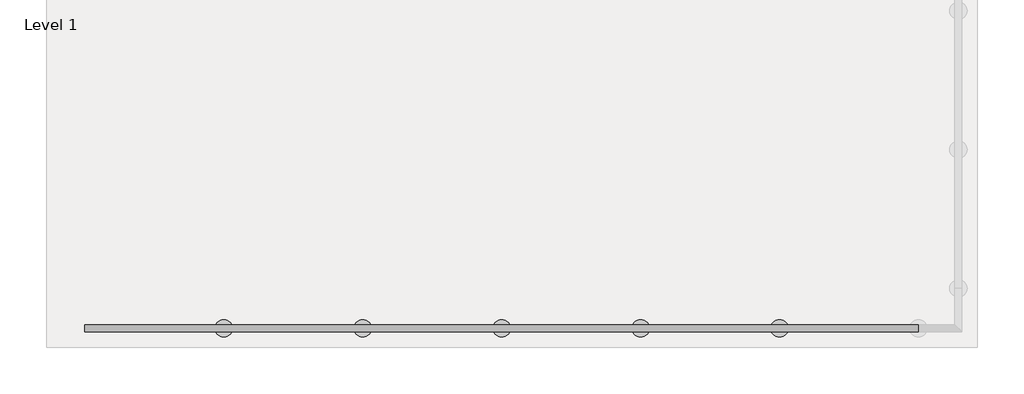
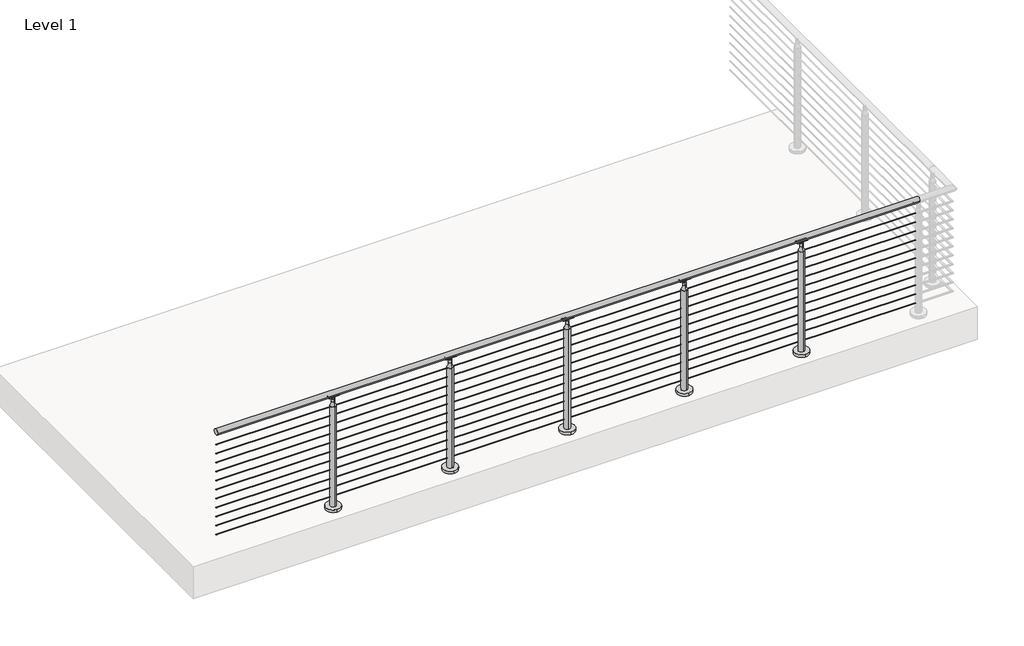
# One storey, part 16 of 21: 1 railing.
"""IFC4 building model written with IfcOpenShell, lengths in millimetres."""

from ifc_helpers import new_model, si_unit, point, frame, frame_2d, origin, origin_with_axes, place, context, project, spatial, polyline, circle_curve, ellipse_curve, trimmed, segment, composite_curve, outline, extrude, element, save
from ifc_brep_helpers import plane_surface, cylinder_surface, revolved_surface, advanced_brep

model = new_model("IFC4")

# Units and contexts
model_context = context("Model", 3, world=origin())
ifc_project = project(units=[si_unit("LENGTHUNIT", "METRE", prefix="MILLI")], contexts=[model_context])

# Site, building, storey
site = spatial("IfcSite", under=ifc_project)
building = spatial("IfcBuilding", under=site)
storey = spatial("IfcBuildingStorey", under=building, Name="Level 1", Elevation=0.0)

# Railing
placement = place(None, origin())
element("IfcRailing", 1, ObjectType="VIVA-CIRCA-Cable-Core Mount-Straight", at=placement, inside=storey, context=model_context, shape_type="SolidModel", body=[
    extrude(outline(composite_curve([segment(trimmed(circle_curve(frame_2d((-57044.7334719, 1054.1)), 25.4), [point((-57070.1334719, 1054.1))], [point((-57019.3334719, 1054.1))], False, "CARTESIAN"), True, "CONTINUOUS"), segment(trimmed(circle_curve(frame_2d((-57044.7334719, 1054.1)), 25.4), [point((-57019.3334719, 1054.1))], [point((-57070.1334719, 1054.1))], False, "CARTESIAN"), True, "CONTINUOUS")], self_intersect=False)), frame((63495.9592968, 0.0, 0.0), z_axis=(1.0, 0.0, 0.0), x_axis=(0.0, 1.0, 0.0)), (0.0, 0.0, 1.0), 6096.0),
    extrude(outline(composite_curve([segment(trimmed(circle_curve(frame_2d((-57044.7334719, 937.4124)), 2.3876), [point((-57042.3458719, 937.4124))], [point((-57047.1210719, 937.4124))], False, "CARTESIAN"), True, "CONTINUOUS"), segment(trimmed(circle_curve(frame_2d((-57044.7334719, 937.4124)), 2.3876), [point((-57047.1210719, 937.4124))], [point((-57042.3458719, 937.4124))], False, "CARTESIAN"), True, "CONTINUOUS")], self_intersect=False)), frame((63495.9592968, 0.0, 0.0), z_axis=(1.0, 0.0, 0.0), x_axis=(0.0, 1.0, 0.0)), (0.0, 0.0, 1.0), 6096.0),
    extrude(outline(composite_curve([segment(trimmed(circle_curve(frame_2d((-57044.7334719, 854.8624)), 2.3876), [point((-57042.3458719, 854.8624))], [point((-57047.1210719, 854.8624))], False, "CARTESIAN"), True, "CONTINUOUS"), segment(trimmed(circle_curve(frame_2d((-57044.7334719, 854.8624)), 2.3876), [point((-57047.1210719, 854.8624))], [point((-57042.3458719, 854.8624))], False, "CARTESIAN"), True, "CONTINUOUS")], self_intersect=False)), frame((63495.9592968, 0.0, 0.0), z_axis=(1.0, 0.0, 0.0), x_axis=(0.0, 1.0, 0.0)), (0.0, 0.0, 1.0), 6096.0),
    extrude(outline(composite_curve([segment(trimmed(circle_curve(frame_2d((-57044.7334719, 772.3124)), 2.3876), [point((-57042.3458719, 772.3124))], [point((-57047.1210719, 772.3124))], False, "CARTESIAN"), True, "CONTINUOUS"), segment(trimmed(circle_curve(frame_2d((-57044.7334719, 772.3124)), 2.3876), [point((-57047.1210719, 772.3124))], [point((-57042.3458719, 772.3124))], False, "CARTESIAN"), True, "CONTINUOUS")], self_intersect=False)), frame((63495.9592968, 0.0, 0.0), z_axis=(1.0, 0.0, 0.0), x_axis=(0.0, 1.0, 0.0)), (0.0, 0.0, 1.0), 6096.0),
    extrude(outline(composite_curve([segment(trimmed(circle_curve(frame_2d((-57044.7334719, 689.7624)), 2.3876), [point((-57042.3458719, 689.7624))], [point((-57047.1210719, 689.7624))], False, "CARTESIAN"), True, "CONTINUOUS"), segment(trimmed(circle_curve(frame_2d((-57044.7334719, 689.7624)), 2.3876), [point((-57047.1210719, 689.7624))], [point((-57042.3458719, 689.7624))], False, "CARTESIAN"), True, "CONTINUOUS")], self_intersect=False)), frame((63495.9592968, 0.0, 0.0), z_axis=(1.0, 0.0, 0.0), x_axis=(0.0, 1.0, 0.0)), (0.0, 0.0, 1.0), 6096.0),
    extrude(outline(composite_curve([segment(trimmed(circle_curve(frame_2d((-57044.7334719, 607.2124)), 2.3876), [point((-57042.3458719, 607.2124))], [point((-57047.1210719, 607.2124))], False, "CARTESIAN"), True, "CONTINUOUS"), segment(trimmed(circle_curve(frame_2d((-57044.7334719, 607.2124)), 2.3876), [point((-57047.1210719, 607.2124))], [point((-57042.3458719, 607.2124))], False, "CARTESIAN"), True, "CONTINUOUS")], self_intersect=False)), frame((63495.9592968, 0.0, 0.0), z_axis=(1.0, 0.0, 0.0), x_axis=(0.0, 1.0, 0.0)), (0.0, 0.0, 1.0), 6096.0),
    extrude(outline(composite_curve([segment(trimmed(circle_curve(frame_2d((-57044.7334719, 524.6624)), 2.3876), [point((-57042.3458719, 524.6624))], [point((-57047.1210719, 524.6624))], False, "CARTESIAN"), True, "CONTINUOUS"), segment(trimmed(circle_curve(frame_2d((-57044.7334719, 524.6624)), 2.3876), [point((-57047.1210719, 524.6624))], [point((-57042.3458719, 524.6624))], False, "CARTESIAN"), True, "CONTINUOUS")], self_intersect=False)), frame((63495.9592968, 0.0, 0.0), z_axis=(1.0, 0.0, 0.0), x_axis=(0.0, 1.0, 0.0)), (0.0, 0.0, 1.0), 6096.0),
    extrude(outline(composite_curve([segment(trimmed(circle_curve(frame_2d((-57044.7334719, 442.1124)), 2.3876), [point((-57042.3458719, 442.1124))], [point((-57047.1210719, 442.1124))], False, "CARTESIAN"), True, "CONTINUOUS"), segment(trimmed(circle_curve(frame_2d((-57044.7334719, 442.1124)), 2.3876), [point((-57047.1210719, 442.1124))], [point((-57042.3458719, 442.1124))], False, "CARTESIAN"), True, "CONTINUOUS")], self_intersect=False)), frame((63495.9592968, 0.0, 0.0), z_axis=(1.0, 0.0, 0.0), x_axis=(0.0, 1.0, 0.0)), (0.0, 0.0, 1.0), 6096.0),
    extrude(outline(composite_curve([segment(trimmed(circle_curve(frame_2d((-57044.7334719, 359.5624)), 2.3876), [point((-57042.3458719, 359.5624))], [point((-57047.1210719, 359.5624))], False, "CARTESIAN"), True, "CONTINUOUS"), segment(trimmed(circle_curve(frame_2d((-57044.7334719, 359.5624)), 2.3876), [point((-57047.1210719, 359.5624))], [point((-57042.3458719, 359.5624))], False, "CARTESIAN"), True, "CONTINUOUS")], self_intersect=False)), frame((63495.9592968, 0.0, 0.0), z_axis=(1.0, 0.0, 0.0), x_axis=(0.0, 1.0, 0.0)), (0.0, 0.0, 1.0), 6096.0),
    extrude(outline(composite_curve([segment(trimmed(circle_curve(frame_2d((-57044.7334719, 277.0124)), 2.3876), [point((-57042.3458719, 277.0124))], [point((-57047.1210719, 277.0124))], False, "CARTESIAN"), True, "CONTINUOUS"), segment(trimmed(circle_curve(frame_2d((-57044.7334719, 277.0124)), 2.3876), [point((-57047.1210719, 277.0124))], [point((-57042.3458719, 277.0124))], False, "CARTESIAN"), True, "CONTINUOUS")], self_intersect=False)), frame((63495.9592968, 0.0, 0.0), z_axis=(1.0, 0.0, 0.0), x_axis=(0.0, 1.0, 0.0)), (0.0, 0.0, 1.0), 6096.0),
    extrude(outline(composite_curve([segment(trimmed(circle_curve(frame_2d((-57044.7334719, 194.4624)), 2.3876), [point((-57042.3458719, 194.4624))], [point((-57047.1210719, 194.4624))], False, "CARTESIAN"), True, "CONTINUOUS"), segment(trimmed(circle_curve(frame_2d((-57044.7334719, 194.4624)), 2.3876), [point((-57047.1210719, 194.4624))], [point((-57042.3458719, 194.4624))], False, "CARTESIAN"), True, "CONTINUOUS")], self_intersect=False)), frame((63495.9592968, 0.0, 0.0), z_axis=(1.0, 0.0, 0.0), x_axis=(0.0, 1.0, 0.0)), (0.0, 0.0, 1.0), 6096.0),
    extrude(outline(composite_curve([segment(trimmed(circle_curve(frame_2d((-57044.7334719, 111.9124)), 2.3876), [point((-57042.3458719, 111.9124))], [point((-57047.1210719, 111.9124))], False, "CARTESIAN"), True, "CONTINUOUS"), segment(trimmed(circle_curve(frame_2d((-57044.7334719, 111.9124)), 2.3876), [point((-57047.1210719, 111.9124))], [point((-57042.3458719, 111.9124))], False, "CARTESIAN"), True, "CONTINUOUS")], self_intersect=False)), frame((63495.9592968, 0.0, 0.0), z_axis=(1.0, 0.0, 0.0), x_axis=(0.0, 1.0, 0.0)), (0.0, 0.0, 1.0), 6096.0),
    extrude(outline(composite_curve([segment(trimmed(circle_curve(frame_2d((68576.3561718, -57044.7334719)), 63.5), [point((68576.3561718, -57108.2334719))], [point((68576.3561718, -56981.2334719))], False, "CARTESIAN"), True, "CONTINUOUS"), segment(trimmed(circle_curve(frame_2d((68576.3561718, -57044.7334719)), 63.5), [point((68576.3561718, -56981.2334719))], [point((68576.3561718, -57108.2334719))], False, "CARTESIAN"), True, "CONTINUOUS")], self_intersect=False)), origin_with_axes(), (0.0, 0.0, 1.0), 25.4),
    extrude(outline(composite_curve([segment(trimmed(circle_curve(frame_2d((-57044.6367435, 1055.4254922)), 25.4345159), [point((-57057.2005464, 1033.3106679))], [point((-57032.2415097, 1033.2157471))], True, "CARTESIAN"), True, "CONTINUOUS"), segment(trimmed(circle_curve(frame_2d((-57030.9968566, 1030.7132623)), 2.7949225), [point((-57032.2415097, 1033.2157471))], [point((-57029.5195515, 1028.3406769))], False, "CARTESIAN"), True, "CONTINUOUS"), segment(trimmed(circle_curve(frame_2d((-57044.7702066, 1056.1881188)), 31.75), [point((-57029.5195515, 1028.3406769))], [point((-57061.0364438, 1028.9214354))], False, "CARTESIAN"), True, "CONTINUOUS"), segment(trimmed(circle_curve(frame_2d((-57058.7481041, 1030.7923545)), 2.9558141), [point((-57061.0364438, 1028.9214354))], [point((-57057.2005464, 1033.3106679))], False, "CARTESIAN"), True, "CONTINUOUS")], self_intersect=False)), frame((68531.1187718, 0.0, 0.0), z_axis=(1.0, 0.0, 0.0), x_axis=(0.0, 1.0, 0.0)), (0.0, 0.0, 1.0), 90.4748),
    extrude(outline(composite_curve([segment(polyline([(1024.6506908, 68603.4240866), (1024.6506908, 68549.2882569)]), True, "CONTINUOUS"), segment(trimmed(circle_curve(frame_2d((1010.282776, 68549.2882569)), 14.3679149), [point((1024.6506908, 68549.2882569))], [point((1010.282776, 68563.6561718))], True, "CARTESIAN"), True, "CONTINUOUS"), segment(trimmed(circle_curve(frame_2d((1010.282776, 68576.3561718)), 12.7), [point((1010.282776, 68563.6561718))], [point((1010.282776, 68589.0561718))], False, "CARTESIAN"), True, "CONTINUOUS"), segment(trimmed(circle_curve(frame_2d((1010.282776, 68603.4240866)), 14.3679149), [point((1010.282776, 68589.0561718))], [point((1024.6506908, 68603.4240866))], True, "CARTESIAN"), True, "CONTINUOUS")], self_intersect=False)), frame((0.0, -57047.2734719, 0.0), z_axis=(0.0, 1.0, 0.0), x_axis=(0.0, 0.0, 1.0)), (0.0, 0.0, 1.0), 5.08),
    advanced_brep(
    [(68576.3561718, -57070.1328697, 941.1347854), (68576.3561718, -57019.3340741, 941.1347854), (68576.3561718, -57019.3340741, -88.9), (68576.3561718, -57070.1328697, -88.9), (68576.3561718, -57057.4714404, 979.3486202), (68576.3561718, -57031.9955033, 979.3486202), (68576.3561718, -57057.4714404, 1008.5779599), (68576.3561718, -57031.9955033, 1008.5779599), (68576.3561718, -57044.7334719, 1015.238668), (68576.3561718, -57044.7334719, -88.9)],
    [
        (0, 1, circle_curve(frame((68576.3561718, -57044.7334719, 941.1347854), z_axis=(0.0, 0.0, -1.0), x_axis=(0.0, 1.0, 0.0)), 25.3993978)),
        (1, 2),
        (2, 3, circle_curve(frame((68576.3561718, -57044.7334719, -88.9), z_axis=(0.0, 0.0, 1.0), x_axis=(0.0, 1.0, 0.0)), 25.3993978)),
        (3, 0),
        (1, 0, circle_curve(frame((68576.3561718, -57044.7334719, 941.1347854), z_axis=(0.0, 0.0, -1.0), x_axis=(0.0, 1.0, 0.0)), 25.3993978)),
        (3, 2, circle_curve(frame((68576.3561718, -57044.7334719, -88.9), z_axis=(0.0, 0.0, 1.0), x_axis=(0.0, 1.0, 0.0)), 25.3993978)),
        (4, 5, circle_curve(frame((68576.3561718, -57044.7334719, 979.3486202), z_axis=(0.0, 0.0, -1.0), x_axis=(0.0, 1.0, 0.0)), 12.7379685)),
        (5, 1, circle_curve(frame((68576.3561718, -56967.997635, 979.3486202), z_axis=(1.0, 0.0, 0.0), x_axis=(0.0, 1.0, 0.0)), 63.9978683)),
        (0, 4, circle_curve(frame((68576.3561718, -57121.4693087, 979.3486202), z_axis=(1.0, 0.0, 0.0), x_axis=(0.0, -1.0, 0.0)), 63.9978683)),
        (5, 4, circle_curve(frame((68576.3561718, -57044.7334719, 979.3486202), z_axis=(0.0, 0.0, -1.0), x_axis=(0.0, 1.0, 0.0)), 12.7379685)),
        (6, 7, circle_curve(frame((68576.3561718, -57044.7334719, 1008.5779599), z_axis=(0.0, 0.0, -1.0), x_axis=(0.0, 1.0, 0.0)), 12.7379685)),
        (7, 5),
        (4, 6),
        (7, 6, circle_curve(frame((68576.3561718, -57044.7334719, 1008.5779599), z_axis=(0.0, 0.0, -1.0), x_axis=(0.0, 1.0, 0.0)), 12.7379685)),
        (8, 7, circle_curve(frame((68576.3561718, -57044.7334719, 999.7282394), z_axis=(-1.0, 0.0, 0.0), x_axis=(0.0, 1.0, 0.0)), 15.5104286)),
        (6, 8, circle_curve(frame((68576.3561718, -57044.7334719, 999.7282394), z_axis=(-1.0, 0.0, 0.0), x_axis=(0.0, -1.0, 0.0)), 15.5104286)),
        (2, 9),
        (9, 3),
    ],
    [
        cylinder_surface(frame((68576.3561718, -57044.7334719, 1104.9), z_axis=(0.0, 0.0, 1.0), x_axis=(0.0, 1.0, 0.0)), 25.3993978),
        revolved_surface(trimmed(ellipse_curve(frame((68576.3561718, -56967.997635, 979.3486202), z_axis=(-1.0, 0.0, 0.0), x_axis=(0.0, 1.0, 0.0)), 63.9978683, 63.9978683), [point((68576.3561718, -57019.3340741, 941.1347854))], [point((68576.3561718, -57031.9955033, 979.3486202))], True, "CARTESIAN"), (68576.3561718, -57044.7334719, 1104.9), (0.0, 0.0, 1.0)),
        cylinder_surface(frame((68576.3561718, -57044.7334719, 1104.9), z_axis=(0.0, 0.0, 1.0), x_axis=(0.0, 1.0, 0.0)), 12.7379685),
        revolved_surface(trimmed(ellipse_curve(frame((68576.3561718, -57044.7334719, 999.7282394), z_axis=(1.0, 0.0, 0.0), x_axis=(0.0, 1.0, 0.0)), 15.5104286, 15.5104286), [point((68576.3561718, -57031.9955033, 1008.5779599))], [point((68576.3561718, -57044.7334719, 1015.238668))], True, "CARTESIAN"), (68576.3561718, -57044.7334719, 1104.9), (0.0, 0.0, 1.0)),
        plane_surface(frame((68576.3561718, -57044.7334719, -88.9), z_axis=(0.0, 0.0, -1.0), x_axis=(0.0, 1.0, 0.0))),
    ],
    [
        (0, [[1, 2, 3, 4]]),
        (0, [[5, -4, 6, -2]]),
        (1, [[7, 8, -1, 9]]),
        (1, [[10, -9, -5, -8]]),
        (2, [[11, 12, -7, 13]]),
        (2, [[14, -13, -10, -12]]),
        (3, [[15, -11, 16]]),
        (3, [[-16, -14, -15]]),
        (4, [[-3, 17, 18]]),
        (4, [[-6, -18, -17]]),
    ],
),
    extrude(outline(composite_curve([segment(trimmed(circle_curve(frame_2d((67560.3561718, -57044.7334719)), 63.5), [point((67560.3561718, -57108.2334719))], [point((67560.3561718, -56981.2334719))], False, "CARTESIAN"), True, "CONTINUOUS"), segment(trimmed(circle_curve(frame_2d((67560.3561718, -57044.7334719)), 63.5), [point((67560.3561718, -56981.2334719))], [point((67560.3561718, -57108.2334719))], False, "CARTESIAN"), True, "CONTINUOUS")], self_intersect=False)), origin_with_axes(), (0.0, 0.0, 1.0), 25.4),
    extrude(outline(composite_curve([segment(trimmed(circle_curve(frame_2d((-57044.6367435, 1055.4254922)), 25.4345159), [point((-57057.2005464, 1033.3106679))], [point((-57032.2415097, 1033.2157471))], True, "CARTESIAN"), True, "CONTINUOUS"), segment(trimmed(circle_curve(frame_2d((-57030.9968566, 1030.7132623)), 2.7949225), [point((-57032.2415097, 1033.2157471))], [point((-57029.5195515, 1028.3406769))], False, "CARTESIAN"), True, "CONTINUOUS"), segment(trimmed(circle_curve(frame_2d((-57044.7702066, 1056.1881188)), 31.75), [point((-57029.5195515, 1028.3406769))], [point((-57061.0364438, 1028.9214354))], False, "CARTESIAN"), True, "CONTINUOUS"), segment(trimmed(circle_curve(frame_2d((-57058.7481041, 1030.7923545)), 2.9558141), [point((-57061.0364438, 1028.9214354))], [point((-57057.2005464, 1033.3106679))], False, "CARTESIAN"), True, "CONTINUOUS")], self_intersect=False)), frame((67515.1187718, 0.0, 0.0), z_axis=(1.0, 0.0, 0.0), x_axis=(0.0, 1.0, 0.0)), (0.0, 0.0, 1.0), 90.4748),
    extrude(outline(composite_curve([segment(polyline([(1024.6506908, 67587.4240866), (1024.6506908, 67533.2882569)]), True, "CONTINUOUS"), segment(trimmed(circle_curve(frame_2d((1010.282776, 67533.2882569)), 14.3679149), [point((1024.6506908, 67533.2882569))], [point((1010.282776, 67547.6561718))], True, "CARTESIAN"), True, "CONTINUOUS"), segment(trimmed(circle_curve(frame_2d((1010.282776, 67560.3561718)), 12.7), [point((1010.282776, 67547.6561718))], [point((1010.282776, 67573.0561718))], False, "CARTESIAN"), True, "CONTINUOUS"), segment(trimmed(circle_curve(frame_2d((1010.282776, 67587.4240866)), 14.3679149), [point((1010.282776, 67573.0561718))], [point((1024.6506908, 67587.4240866))], True, "CARTESIAN"), True, "CONTINUOUS")], self_intersect=False)), frame((0.0, -57047.2734719, 0.0), z_axis=(0.0, 1.0, 0.0), x_axis=(0.0, 0.0, 1.0)), (0.0, 0.0, 1.0), 5.08),
    advanced_brep(
    [(67560.3561718, -57070.1328697, 941.1347854), (67560.3561718, -57019.3340741, 941.1347854), (67560.3561718, -57019.3340741, -88.9), (67560.3561718, -57070.1328697, -88.9), (67560.3561718, -57057.4714404, 979.3486202), (67560.3561718, -57031.9955033, 979.3486202), (67560.3561718, -57057.4714404, 1008.5779599), (67560.3561718, -57031.9955033, 1008.5779599), (67560.3561718, -57044.7334719, 1015.238668), (67560.3561718, -57044.7334719, -88.9)],
    [
        (0, 1, circle_curve(frame((67560.3561718, -57044.7334719, 941.1347854), z_axis=(0.0, 0.0, -1.0), x_axis=(0.0, 1.0, 0.0)), 25.3993978)),
        (1, 2),
        (2, 3, circle_curve(frame((67560.3561718, -57044.7334719, -88.9), z_axis=(0.0, 0.0, 1.0), x_axis=(0.0, 1.0, 0.0)), 25.3993978)),
        (3, 0),
        (1, 0, circle_curve(frame((67560.3561718, -57044.7334719, 941.1347854), z_axis=(0.0, 0.0, -1.0), x_axis=(0.0, 1.0, 0.0)), 25.3993978)),
        (3, 2, circle_curve(frame((67560.3561718, -57044.7334719, -88.9), z_axis=(0.0, 0.0, 1.0), x_axis=(0.0, 1.0, 0.0)), 25.3993978)),
        (4, 5, circle_curve(frame((67560.3561718, -57044.7334719, 979.3486202), z_axis=(0.0, 0.0, -1.0), x_axis=(0.0, 1.0, 0.0)), 12.7379685)),
        (5, 1, circle_curve(frame((67560.3561718, -56967.997635, 979.3486202), z_axis=(1.0, 0.0, 0.0), x_axis=(0.0, 1.0, 0.0)), 63.9978683)),
        (0, 4, circle_curve(frame((67560.3561718, -57121.4693087, 979.3486202), z_axis=(1.0, 0.0, 0.0), x_axis=(0.0, -1.0, 0.0)), 63.9978683)),
        (5, 4, circle_curve(frame((67560.3561718, -57044.7334719, 979.3486202), z_axis=(0.0, 0.0, -1.0), x_axis=(0.0, 1.0, 0.0)), 12.7379685)),
        (6, 7, circle_curve(frame((67560.3561718, -57044.7334719, 1008.5779599), z_axis=(0.0, 0.0, -1.0), x_axis=(0.0, 1.0, 0.0)), 12.7379685)),
        (7, 5),
        (4, 6),
        (7, 6, circle_curve(frame((67560.3561718, -57044.7334719, 1008.5779599), z_axis=(0.0, 0.0, -1.0), x_axis=(0.0, 1.0, 0.0)), 12.7379685)),
        (8, 7, circle_curve(frame((67560.3561718, -57044.7334719, 999.7282394), z_axis=(-1.0, 0.0, 0.0), x_axis=(0.0, 1.0, 0.0)), 15.5104286)),
        (6, 8, circle_curve(frame((67560.3561718, -57044.7334719, 999.7282394), z_axis=(-1.0, 0.0, 0.0), x_axis=(0.0, -1.0, 0.0)), 15.5104286)),
        (2, 9),
        (9, 3),
    ],
    [
        cylinder_surface(frame((67560.3561718, -57044.7334719, 1104.9), z_axis=(0.0, 0.0, 1.0), x_axis=(0.0, 1.0, 0.0)), 25.3993978),
        revolved_surface(trimmed(ellipse_curve(frame((67560.3561718, -56967.997635, 979.3486202), z_axis=(-1.0, 0.0, 0.0), x_axis=(0.0, 1.0, 0.0)), 63.9978683, 63.9978683), [point((67560.3561718, -57019.3340741, 941.1347854))], [point((67560.3561718, -57031.9955033, 979.3486202))], True, "CARTESIAN"), (67560.3561718, -57044.7334719, 1104.9), (0.0, 0.0, 1.0)),
        cylinder_surface(frame((67560.3561718, -57044.7334719, 1104.9), z_axis=(0.0, 0.0, 1.0), x_axis=(0.0, 1.0, 0.0)), 12.7379685),
        revolved_surface(trimmed(ellipse_curve(frame((67560.3561718, -57044.7334719, 999.7282394), z_axis=(1.0, 0.0, 0.0), x_axis=(0.0, 1.0, 0.0)), 15.5104286, 15.5104286), [point((67560.3561718, -57031.9955033, 1008.5779599))], [point((67560.3561718, -57044.7334719, 1015.238668))], True, "CARTESIAN"), (67560.3561718, -57044.7334719, 1104.9), (0.0, 0.0, 1.0)),
        plane_surface(frame((67560.3561718, -57044.7334719, -88.9), z_axis=(0.0, 0.0, -1.0), x_axis=(0.0, 1.0, 0.0))),
    ],
    [
        (0, [[1, 2, 3, 4]]),
        (0, [[5, -4, 6, -2]]),
        (1, [[7, 8, -1, 9]]),
        (1, [[10, -9, -5, -8]]),
        (2, [[11, 12, -7, 13]]),
        (2, [[14, -13, -10, -12]]),
        (3, [[15, -11, 16]]),
        (3, [[-16, -14, -15]]),
        (4, [[-3, 17, 18]]),
        (4, [[-6, -18, -17]]),
    ],
),
    extrude(outline(composite_curve([segment(trimmed(circle_curve(frame_2d((66544.3561718, -57044.7334719)), 63.5), [point((66544.3561718, -57108.2334719))], [point((66544.3561718, -56981.2334719))], False, "CARTESIAN"), True, "CONTINUOUS"), segment(trimmed(circle_curve(frame_2d((66544.3561718, -57044.7334719)), 63.5), [point((66544.3561718, -56981.2334719))], [point((66544.3561718, -57108.2334719))], False, "CARTESIAN"), True, "CONTINUOUS")], self_intersect=False)), origin_with_axes(), (0.0, 0.0, 1.0), 25.4),
    extrude(outline(composite_curve([segment(trimmed(circle_curve(frame_2d((-57044.6367435, 1055.4254922)), 25.4345159), [point((-57057.2005464, 1033.3106679))], [point((-57032.2415097, 1033.2157471))], True, "CARTESIAN"), True, "CONTINUOUS"), segment(trimmed(circle_curve(frame_2d((-57030.9968566, 1030.7132623)), 2.7949225), [point((-57032.2415097, 1033.2157471))], [point((-57029.5195515, 1028.3406769))], False, "CARTESIAN"), True, "CONTINUOUS"), segment(trimmed(circle_curve(frame_2d((-57044.7702066, 1056.1881188)), 31.75), [point((-57029.5195515, 1028.3406769))], [point((-57061.0364438, 1028.9214354))], False, "CARTESIAN"), True, "CONTINUOUS"), segment(trimmed(circle_curve(frame_2d((-57058.7481041, 1030.7923545)), 2.9558141), [point((-57061.0364438, 1028.9214354))], [point((-57057.2005464, 1033.3106679))], False, "CARTESIAN"), True, "CONTINUOUS")], self_intersect=False)), frame((66499.1187718, 0.0, 0.0), z_axis=(1.0, 0.0, 0.0), x_axis=(0.0, 1.0, 0.0)), (0.0, 0.0, 1.0), 90.4748),
    extrude(outline(composite_curve([segment(polyline([(1024.6506908, 66571.4240866), (1024.6506908, 66517.2882569)]), True, "CONTINUOUS"), segment(trimmed(circle_curve(frame_2d((1010.282776, 66517.2882569)), 14.3679149), [point((1024.6506908, 66517.2882569))], [point((1010.282776, 66531.6561718))], True, "CARTESIAN"), True, "CONTINUOUS"), segment(trimmed(circle_curve(frame_2d((1010.282776, 66544.3561718)), 12.7), [point((1010.282776, 66531.6561718))], [point((1010.282776, 66557.0561718))], False, "CARTESIAN"), True, "CONTINUOUS"), segment(trimmed(circle_curve(frame_2d((1010.282776, 66571.4240866)), 14.3679149), [point((1010.282776, 66557.0561718))], [point((1024.6506908, 66571.4240866))], True, "CARTESIAN"), True, "CONTINUOUS")], self_intersect=False)), frame((0.0, -57047.2734719, 0.0), z_axis=(0.0, 1.0, 0.0), x_axis=(0.0, 0.0, 1.0)), (0.0, 0.0, 1.0), 5.08),
    advanced_brep(
    [(66544.3561718, -57070.1328697, 941.1347854), (66544.3561718, -57019.3340741, 941.1347854), (66544.3561718, -57019.3340741, -88.9), (66544.3561718, -57070.1328697, -88.9), (66544.3561718, -57057.4714404, 979.3486202), (66544.3561718, -57031.9955033, 979.3486202), (66544.3561718, -57057.4714404, 1008.5779599), (66544.3561718, -57031.9955033, 1008.5779599), (66544.3561718, -57044.7334719, 1015.238668), (66544.3561718, -57044.7334719, -88.9)],
    [
        (0, 1, circle_curve(frame((66544.3561718, -57044.7334719, 941.1347854), z_axis=(0.0, 0.0, -1.0), x_axis=(0.0, 1.0, 0.0)), 25.3993978)),
        (1, 2),
        (2, 3, circle_curve(frame((66544.3561718, -57044.7334719, -88.9), z_axis=(0.0, 0.0, 1.0), x_axis=(0.0, 1.0, 0.0)), 25.3993978)),
        (3, 0),
        (1, 0, circle_curve(frame((66544.3561718, -57044.7334719, 941.1347854), z_axis=(0.0, 0.0, -1.0), x_axis=(0.0, 1.0, 0.0)), 25.3993978)),
        (3, 2, circle_curve(frame((66544.3561718, -57044.7334719, -88.9), z_axis=(0.0, 0.0, 1.0), x_axis=(0.0, 1.0, 0.0)), 25.3993978)),
        (4, 5, circle_curve(frame((66544.3561718, -57044.7334719, 979.3486202), z_axis=(0.0, 0.0, -1.0), x_axis=(0.0, 1.0, 0.0)), 12.7379685)),
        (5, 1, circle_curve(frame((66544.3561718, -56967.997635, 979.3486202), z_axis=(1.0, 0.0, 0.0), x_axis=(0.0, 1.0, 0.0)), 63.9978683)),
        (0, 4, circle_curve(frame((66544.3561718, -57121.4693087, 979.3486202), z_axis=(1.0, 0.0, 0.0), x_axis=(0.0, -1.0, 0.0)), 63.9978683)),
        (5, 4, circle_curve(frame((66544.3561718, -57044.7334719, 979.3486202), z_axis=(0.0, 0.0, -1.0), x_axis=(0.0, 1.0, 0.0)), 12.7379685)),
        (6, 7, circle_curve(frame((66544.3561718, -57044.7334719, 1008.5779599), z_axis=(0.0, 0.0, -1.0), x_axis=(0.0, 1.0, 0.0)), 12.7379685)),
        (7, 5),
        (4, 6),
        (7, 6, circle_curve(frame((66544.3561718, -57044.7334719, 1008.5779599), z_axis=(0.0, 0.0, -1.0), x_axis=(0.0, 1.0, 0.0)), 12.7379685)),
        (8, 7, circle_curve(frame((66544.3561718, -57044.7334719, 999.7282394), z_axis=(-1.0, 0.0, 0.0), x_axis=(0.0, 1.0, 0.0)), 15.5104286)),
        (6, 8, circle_curve(frame((66544.3561718, -57044.7334719, 999.7282394), z_axis=(-1.0, 0.0, 0.0), x_axis=(0.0, -1.0, 0.0)), 15.5104286)),
        (2, 9),
        (9, 3),
    ],
    [
        cylinder_surface(frame((66544.3561718, -57044.7334719, 1104.9), z_axis=(0.0, 0.0, 1.0), x_axis=(0.0, 1.0, 0.0)), 25.3993978),
        revolved_surface(trimmed(ellipse_curve(frame((66544.3561718, -56967.997635, 979.3486202), z_axis=(-1.0, 0.0, 0.0), x_axis=(0.0, 1.0, 0.0)), 63.9978683, 63.9978683), [point((66544.3561718, -57019.3340741, 941.1347854))], [point((66544.3561718, -57031.9955033, 979.3486202))], True, "CARTESIAN"), (66544.3561718, -57044.7334719, 1104.9), (0.0, 0.0, 1.0)),
        cylinder_surface(frame((66544.3561718, -57044.7334719, 1104.9), z_axis=(0.0, 0.0, 1.0), x_axis=(0.0, 1.0, 0.0)), 12.7379685),
        revolved_surface(trimmed(ellipse_curve(frame((66544.3561718, -57044.7334719, 999.7282394), z_axis=(1.0, 0.0, 0.0), x_axis=(0.0, 1.0, 0.0)), 15.5104286, 15.5104286), [point((66544.3561718, -57031.9955033, 1008.5779599))], [point((66544.3561718, -57044.7334719, 1015.238668))], True, "CARTESIAN"), (66544.3561718, -57044.7334719, 1104.9), (0.0, 0.0, 1.0)),
        plane_surface(frame((66544.3561718, -57044.7334719, -88.9), z_axis=(0.0, 0.0, -1.0), x_axis=(0.0, 1.0, 0.0))),
    ],
    [
        (0, [[1, 2, 3, 4]]),
        (0, [[5, -4, 6, -2]]),
        (1, [[7, 8, -1, 9]]),
        (1, [[10, -9, -5, -8]]),
        (2, [[11, 12, -7, 13]]),
        (2, [[14, -13, -10, -12]]),
        (3, [[15, -11, 16]]),
        (3, [[-16, -14, -15]]),
        (4, [[-3, 17, 18]]),
        (4, [[-6, -18, -17]]),
    ],
),
    extrude(outline(composite_curve([segment(trimmed(circle_curve(frame_2d((65528.3561718, -57044.7334719)), 63.5), [point((65528.3561718, -57108.2334719))], [point((65528.3561718, -56981.2334719))], False, "CARTESIAN"), True, "CONTINUOUS"), segment(trimmed(circle_curve(frame_2d((65528.3561718, -57044.7334719)), 63.5), [point((65528.3561718, -56981.2334719))], [point((65528.3561718, -57108.2334719))], False, "CARTESIAN"), True, "CONTINUOUS")], self_intersect=False)), origin_with_axes(), (0.0, 0.0, 1.0), 25.4),
    extrude(outline(composite_curve([segment(trimmed(circle_curve(frame_2d((-57044.6367435, 1055.4254922)), 25.4345159), [point((-57057.2005464, 1033.3106679))], [point((-57032.2415097, 1033.2157471))], True, "CARTESIAN"), True, "CONTINUOUS"), segment(trimmed(circle_curve(frame_2d((-57030.9968566, 1030.7132623)), 2.7949225), [point((-57032.2415097, 1033.2157471))], [point((-57029.5195515, 1028.3406769))], False, "CARTESIAN"), True, "CONTINUOUS"), segment(trimmed(circle_curve(frame_2d((-57044.7702066, 1056.1881188)), 31.75), [point((-57029.5195515, 1028.3406769))], [point((-57061.0364438, 1028.9214354))], False, "CARTESIAN"), True, "CONTINUOUS"), segment(trimmed(circle_curve(frame_2d((-57058.7481041, 1030.7923545)), 2.9558141), [point((-57061.0364438, 1028.9214354))], [point((-57057.2005464, 1033.3106679))], False, "CARTESIAN"), True, "CONTINUOUS")], self_intersect=False)), frame((65483.1187718, 0.0, 0.0), z_axis=(1.0, 0.0, 0.0), x_axis=(0.0, 1.0, 0.0)), (0.0, 0.0, 1.0), 90.4748),
    extrude(outline(composite_curve([segment(polyline([(1024.6506908, 65555.4240866), (1024.6506908, 65501.2882569)]), True, "CONTINUOUS"), segment(trimmed(circle_curve(frame_2d((1010.282776, 65501.2882569)), 14.3679149), [point((1024.6506908, 65501.2882569))], [point((1010.282776, 65515.6561718))], True, "CARTESIAN"), True, "CONTINUOUS"), segment(trimmed(circle_curve(frame_2d((1010.282776, 65528.3561718)), 12.7), [point((1010.282776, 65515.6561718))], [point((1010.282776, 65541.0561718))], False, "CARTESIAN"), True, "CONTINUOUS"), segment(trimmed(circle_curve(frame_2d((1010.282776, 65555.4240866)), 14.3679149), [point((1010.282776, 65541.0561718))], [point((1024.6506908, 65555.4240866))], True, "CARTESIAN"), True, "CONTINUOUS")], self_intersect=False)), frame((0.0, -57047.2734719, 0.0), z_axis=(0.0, 1.0, 0.0), x_axis=(0.0, 0.0, 1.0)), (0.0, 0.0, 1.0), 5.08),
    advanced_brep(
    [(65528.3561718, -57070.1328697, 941.1347854), (65528.3561718, -57019.3340741, 941.1347854), (65528.3561718, -57019.3340741, -88.9), (65528.3561718, -57070.1328697, -88.9), (65528.3561718, -57057.4714404, 979.3486202), (65528.3561718, -57031.9955033, 979.3486202), (65528.3561718, -57057.4714404, 1008.5779599), (65528.3561718, -57031.9955033, 1008.5779599), (65528.3561718, -57044.7334719, 1015.238668), (65528.3561718, -57044.7334719, -88.9)],
    [
        (0, 1, circle_curve(frame((65528.3561718, -57044.7334719, 941.1347854), z_axis=(0.0, 0.0, -1.0), x_axis=(0.0, 1.0, 0.0)), 25.3993978)),
        (1, 2),
        (2, 3, circle_curve(frame((65528.3561718, -57044.7334719, -88.9), z_axis=(0.0, 0.0, 1.0), x_axis=(0.0, 1.0, 0.0)), 25.3993978)),
        (3, 0),
        (1, 0, circle_curve(frame((65528.3561718, -57044.7334719, 941.1347854), z_axis=(0.0, 0.0, -1.0), x_axis=(0.0, 1.0, 0.0)), 25.3993978)),
        (3, 2, circle_curve(frame((65528.3561718, -57044.7334719, -88.9), z_axis=(0.0, 0.0, 1.0), x_axis=(0.0, 1.0, 0.0)), 25.3993978)),
        (4, 5, circle_curve(frame((65528.3561718, -57044.7334719, 979.3486202), z_axis=(0.0, 0.0, -1.0), x_axis=(0.0, 1.0, 0.0)), 12.7379685)),
        (5, 1, circle_curve(frame((65528.3561718, -56967.997635, 979.3486202), z_axis=(1.0, 0.0, 0.0), x_axis=(0.0, 1.0, 0.0)), 63.9978683)),
        (0, 4, circle_curve(frame((65528.3561718, -57121.4693087, 979.3486202), z_axis=(1.0, 0.0, 0.0), x_axis=(0.0, -1.0, 0.0)), 63.9978683)),
        (5, 4, circle_curve(frame((65528.3561718, -57044.7334719, 979.3486202), z_axis=(0.0, 0.0, -1.0), x_axis=(0.0, 1.0, 0.0)), 12.7379685)),
        (6, 7, circle_curve(frame((65528.3561718, -57044.7334719, 1008.5779599), z_axis=(0.0, 0.0, -1.0), x_axis=(0.0, 1.0, 0.0)), 12.7379685)),
        (7, 5),
        (4, 6),
        (7, 6, circle_curve(frame((65528.3561718, -57044.7334719, 1008.5779599), z_axis=(0.0, 0.0, -1.0), x_axis=(0.0, 1.0, 0.0)), 12.7379685)),
        (8, 7, circle_curve(frame((65528.3561718, -57044.7334719, 999.7282394), z_axis=(-1.0, 0.0, 0.0), x_axis=(0.0, 1.0, 0.0)), 15.5104286)),
        (6, 8, circle_curve(frame((65528.3561718, -57044.7334719, 999.7282394), z_axis=(-1.0, 0.0, 0.0), x_axis=(0.0, -1.0, 0.0)), 15.5104286)),
        (2, 9),
        (9, 3),
    ],
    [
        cylinder_surface(frame((65528.3561718, -57044.7334719, 1104.9), z_axis=(0.0, 0.0, 1.0), x_axis=(0.0, 1.0, 0.0)), 25.3993978),
        revolved_surface(trimmed(ellipse_curve(frame((65528.3561718, -56967.997635, 979.3486202), z_axis=(-1.0, 0.0, 0.0), x_axis=(0.0, 1.0, 0.0)), 63.9978683, 63.9978683), [point((65528.3561718, -57019.3340741, 941.1347854))], [point((65528.3561718, -57031.9955033, 979.3486202))], True, "CARTESIAN"), (65528.3561718, -57044.7334719, 1104.9), (0.0, 0.0, 1.0)),
        cylinder_surface(frame((65528.3561718, -57044.7334719, 1104.9), z_axis=(0.0, 0.0, 1.0), x_axis=(0.0, 1.0, 0.0)), 12.7379685),
        revolved_surface(trimmed(ellipse_curve(frame((65528.3561718, -57044.7334719, 999.7282394), z_axis=(1.0, 0.0, 0.0), x_axis=(0.0, 1.0, 0.0)), 15.5104286, 15.5104286), [point((65528.3561718, -57031.9955033, 1008.5779599))], [point((65528.3561718, -57044.7334719, 1015.238668))], True, "CARTESIAN"), (65528.3561718, -57044.7334719, 1104.9), (0.0, 0.0, 1.0)),
        plane_surface(frame((65528.3561718, -57044.7334719, -88.9), z_axis=(0.0, 0.0, -1.0), x_axis=(0.0, 1.0, 0.0))),
    ],
    [
        (0, [[1, 2, 3, 4]]),
        (0, [[5, -4, 6, -2]]),
        (1, [[7, 8, -1, 9]]),
        (1, [[10, -9, -5, -8]]),
        (2, [[11, 12, -7, 13]]),
        (2, [[14, -13, -10, -12]]),
        (3, [[15, -11, 16]]),
        (3, [[-16, -14, -15]]),
        (4, [[-3, 17, 18]]),
        (4, [[-6, -18, -17]]),
    ],
),
    extrude(outline(composite_curve([segment(trimmed(circle_curve(frame_2d((64512.3561718, -57044.7334719)), 63.5), [point((64512.3561718, -57108.2334719))], [point((64512.3561718, -56981.2334719))], False, "CARTESIAN"), True, "CONTINUOUS"), segment(trimmed(circle_curve(frame_2d((64512.3561718, -57044.7334719)), 63.5), [point((64512.3561718, -56981.2334719))], [point((64512.3561718, -57108.2334719))], False, "CARTESIAN"), True, "CONTINUOUS")], self_intersect=False)), origin_with_axes(), (0.0, 0.0, 1.0), 25.4),
    extrude(outline(composite_curve([segment(trimmed(circle_curve(frame_2d((-57044.6367435, 1055.4254922)), 25.4345159), [point((-57057.2005464, 1033.3106679))], [point((-57032.2415097, 1033.2157471))], True, "CARTESIAN"), True, "CONTINUOUS"), segment(trimmed(circle_curve(frame_2d((-57030.9968566, 1030.7132623)), 2.7949225), [point((-57032.2415097, 1033.2157471))], [point((-57029.5195515, 1028.3406769))], False, "CARTESIAN"), True, "CONTINUOUS"), segment(trimmed(circle_curve(frame_2d((-57044.7702066, 1056.1881188)), 31.75), [point((-57029.5195515, 1028.3406769))], [point((-57061.0364438, 1028.9214354))], False, "CARTESIAN"), True, "CONTINUOUS"), segment(trimmed(circle_curve(frame_2d((-57058.7481041, 1030.7923545)), 2.9558141), [point((-57061.0364438, 1028.9214354))], [point((-57057.2005464, 1033.3106679))], False, "CARTESIAN"), True, "CONTINUOUS")], self_intersect=False)), frame((64467.1187718, 0.0, 0.0), z_axis=(1.0, 0.0, 0.0), x_axis=(0.0, 1.0, 0.0)), (0.0, 0.0, 1.0), 90.4748),
    extrude(outline(composite_curve([segment(polyline([(1024.6506908, 64539.4240866), (1024.6506908, 64485.2882569)]), True, "CONTINUOUS"), segment(trimmed(circle_curve(frame_2d((1010.282776, 64485.2882569)), 14.3679149), [point((1024.6506908, 64485.2882569))], [point((1010.282776, 64499.6561718))], True, "CARTESIAN"), True, "CONTINUOUS"), segment(trimmed(circle_curve(frame_2d((1010.282776, 64512.3561718)), 12.7), [point((1010.282776, 64499.6561718))], [point((1010.282776, 64525.0561718))], False, "CARTESIAN"), True, "CONTINUOUS"), segment(trimmed(circle_curve(frame_2d((1010.282776, 64539.4240866)), 14.3679149), [point((1010.282776, 64525.0561718))], [point((1024.6506908, 64539.4240866))], True, "CARTESIAN"), True, "CONTINUOUS")], self_intersect=False)), frame((0.0, -57047.2734719, 0.0), z_axis=(0.0, 1.0, 0.0), x_axis=(0.0, 0.0, 1.0)), (0.0, 0.0, 1.0), 5.08),
    advanced_brep(
    [(64512.3561718, -57070.1328697, 941.1347854), (64512.3561718, -57019.3340741, 941.1347854), (64512.3561718, -57019.3340741, -88.9), (64512.3561718, -57070.1328697, -88.9), (64512.3561718, -57057.4714404, 979.3486202), (64512.3561718, -57031.9955033, 979.3486202), (64512.3561718, -57057.4714404, 1008.5779599), (64512.3561718, -57031.9955033, 1008.5779599), (64512.3561718, -57044.7334719, 1015.238668), (64512.3561718, -57044.7334719, -88.9)],
    [
        (0, 1, circle_curve(frame((64512.3561718, -57044.7334719, 941.1347854), z_axis=(0.0, 0.0, -1.0), x_axis=(0.0, 1.0, 0.0)), 25.3993978)),
        (1, 2),
        (2, 3, circle_curve(frame((64512.3561718, -57044.7334719, -88.9), z_axis=(0.0, 0.0, 1.0), x_axis=(0.0, 1.0, 0.0)), 25.3993978)),
        (3, 0),
        (1, 0, circle_curve(frame((64512.3561718, -57044.7334719, 941.1347854), z_axis=(0.0, 0.0, -1.0), x_axis=(0.0, 1.0, 0.0)), 25.3993978)),
        (3, 2, circle_curve(frame((64512.3561718, -57044.7334719, -88.9), z_axis=(0.0, 0.0, 1.0), x_axis=(0.0, 1.0, 0.0)), 25.3993978)),
        (4, 5, circle_curve(frame((64512.3561718, -57044.7334719, 979.3486202), z_axis=(0.0, 0.0, -1.0), x_axis=(0.0, 1.0, 0.0)), 12.7379685)),
        (5, 1, circle_curve(frame((64512.3561718, -56967.997635, 979.3486202), z_axis=(1.0, 0.0, 0.0), x_axis=(0.0, 1.0, 0.0)), 63.9978683)),
        (0, 4, circle_curve(frame((64512.3561718, -57121.4693087, 979.3486202), z_axis=(1.0, 0.0, 0.0), x_axis=(0.0, -1.0, 0.0)), 63.9978683)),
        (5, 4, circle_curve(frame((64512.3561718, -57044.7334719, 979.3486202), z_axis=(0.0, 0.0, -1.0), x_axis=(0.0, 1.0, 0.0)), 12.7379685)),
        (6, 7, circle_curve(frame((64512.3561718, -57044.7334719, 1008.5779599), z_axis=(0.0, 0.0, -1.0), x_axis=(0.0, 1.0, 0.0)), 12.7379685)),
        (7, 5),
        (4, 6),
        (7, 6, circle_curve(frame((64512.3561718, -57044.7334719, 1008.5779599), z_axis=(0.0, 0.0, -1.0), x_axis=(0.0, 1.0, 0.0)), 12.7379685)),
        (8, 7, circle_curve(frame((64512.3561718, -57044.7334719, 999.7282394), z_axis=(-1.0, 0.0, 0.0), x_axis=(0.0, 1.0, 0.0)), 15.5104286)),
        (6, 8, circle_curve(frame((64512.3561718, -57044.7334719, 999.7282394), z_axis=(-1.0, 0.0, 0.0), x_axis=(0.0, -1.0, 0.0)), 15.5104286)),
        (2, 9),
        (9, 3),
    ],
    [
        cylinder_surface(frame((64512.3561718, -57044.7334719, 1104.9), z_axis=(0.0, 0.0, 1.0), x_axis=(0.0, 1.0, 0.0)), 25.3993978),
        revolved_surface(trimmed(ellipse_curve(frame((64512.3561718, -56967.997635, 979.3486202), z_axis=(-1.0, 0.0, 0.0), x_axis=(0.0, 1.0, 0.0)), 63.9978683, 63.9978683), [point((64512.3561718, -57019.3340741, 941.1347854))], [point((64512.3561718, -57031.9955033, 979.3486202))], True, "CARTESIAN"), (64512.3561718, -57044.7334719, 1104.9), (0.0, 0.0, 1.0)),
        cylinder_surface(frame((64512.3561718, -57044.7334719, 1104.9), z_axis=(0.0, 0.0, 1.0), x_axis=(0.0, 1.0, 0.0)), 12.7379685),
        revolved_surface(trimmed(ellipse_curve(frame((64512.3561718, -57044.7334719, 999.7282394), z_axis=(1.0, 0.0, 0.0), x_axis=(0.0, 1.0, 0.0)), 15.5104286, 15.5104286), [point((64512.3561718, -57031.9955033, 1008.5779599))], [point((64512.3561718, -57044.7334719, 1015.238668))], True, "CARTESIAN"), (64512.3561718, -57044.7334719, 1104.9), (0.0, 0.0, 1.0)),
        plane_surface(frame((64512.3561718, -57044.7334719, -88.9), z_axis=(0.0, 0.0, -1.0), x_axis=(0.0, 1.0, 0.0))),
    ],
    [
        (0, [[1, 2, 3, 4]]),
        (0, [[5, -4, 6, -2]]),
        (1, [[7, 8, -1, 9]]),
        (1, [[10, -9, -5, -8]]),
        (2, [[11, 12, -7, 13]]),
        (2, [[14, -13, -10, -12]]),
        (3, [[15, -11, 16]]),
        (3, [[-16, -14, -15]]),
        (4, [[-3, 17, 18]]),
        (4, [[-6, -18, -17]]),
    ],
),
])

save(model, "model.ifc")
